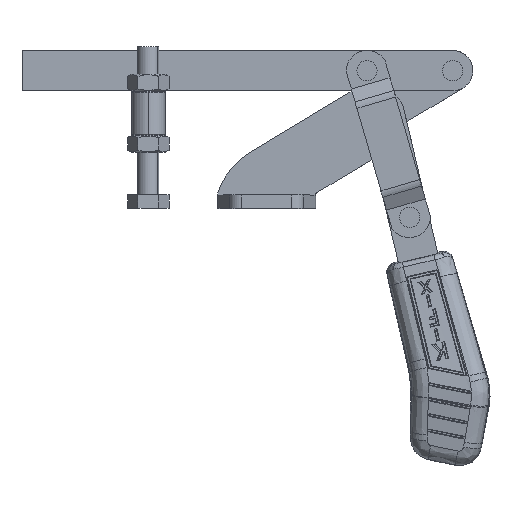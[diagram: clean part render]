
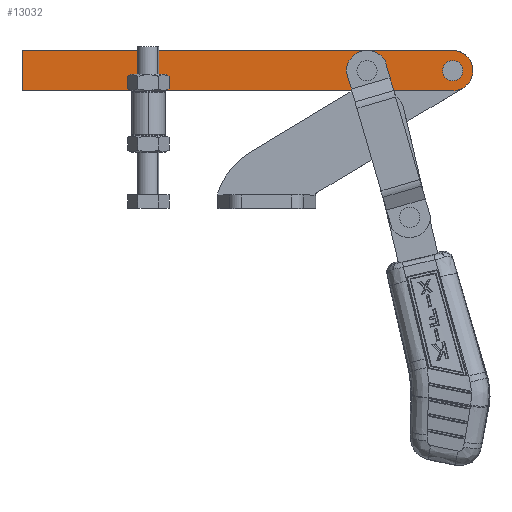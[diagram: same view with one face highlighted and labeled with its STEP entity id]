
A CAD part, top view. The second image highlights one B-rep face of the part: STEP entity #13032.
In plain terms, the highlighted planar face has unit normal (0, 0, 1) as drawn and (0, 0, -1) by its records, which use the part's own axes.
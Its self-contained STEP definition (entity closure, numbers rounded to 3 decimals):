
#455 = CIRCLE ( 'NONE', #14277, 4. ) ;
#493 = DIRECTION ( 'NONE',  ( 0., 0., 1. ) ) ;
#605 = CARTESIAN_POINT ( 'NONE',  ( -9.525, 0., -9.525 ) ) ;
#984 = FACE_OUTER_BOUND ( 'NONE', #18585, .T. ) ;
#1405 = VECTOR ( 'NONE', #5554, 1000. ) ;
#2826 = ORIENTED_EDGE ( 'NONE', *, *, #29583, .F. ) ;
#2956 = DIRECTION ( 'NONE',  ( -1., 0., 0. ) ) ;
#3009 = DIRECTION ( 'NONE',  ( 0., 0., 1. ) ) ;
#3443 = CARTESIAN_POINT ( 'NONE',  ( -213., 9.525, -9.525 ) ) ;
#4080 = EDGE_CURVE ( 'NONE', #22744, #7961, #18310, .T. ) ;
#4344 = CIRCLE ( 'NONE', #15349, 4. ) ;
#4794 = CARTESIAN_POINT ( 'NONE',  ( -5.525, 0., -9.525 ) ) ;
#5541 = CIRCLE ( 'NONE', #28941, 4. ) ;
#5554 = DIRECTION ( 'NONE',  ( 0., -1., 0. ) ) ;
#5631 = DIRECTION ( 'NONE',  ( -1., 0., 0. ) ) ;
#6374 = FACE_BOUND ( 'NONE', #24411, .T. ) ;
#7280 = CIRCLE ( 'NONE', #11014, 9.525 ) ;
#7681 = AXIS2_PLACEMENT_3D ( 'NONE', #20089, #24723, #10925 ) ;
#7961 = VERTEX_POINT ( 'NONE', #24009 ) ;
#8679 = CARTESIAN_POINT ( 'NONE',  ( -9.525, 0., -9.525 ) ) ;
#9606 = VERTEX_POINT ( 'NONE', #10118 ) ;
#9789 = CARTESIAN_POINT ( 'NONE',  ( -50.025, 0., -9.525 ) ) ;
#9970 = EDGE_CURVE ( 'NONE', #9606, #11418, #23336, .T. ) ;
#10068 = ORIENTED_EDGE ( 'NONE', *, *, #23662, .T. ) ;
#10118 = CARTESIAN_POINT ( 'NONE',  ( -46.025, 0., -9.525 ) ) ;
#10352 = VERTEX_POINT ( 'NONE', #22855 ) ;
#10899 = ORIENTED_EDGE ( 'NONE', *, *, #11263, .F. ) ;
#10925 = DIRECTION ( 'NONE',  ( -1., 0., 0. ) ) ;
#10963 = CARTESIAN_POINT ( 'NONE',  ( -54.025, 0., -9.525 ) ) ;
#10970 = DIRECTION ( 'NONE',  ( 1., 0., 0. ) ) ;
#11014 = AXIS2_PLACEMENT_3D ( 'NONE', #605, #16708, #2956 ) ;
#11263 = EDGE_CURVE ( 'NONE', #7961, #16294, #12816, .T. ) ;
#11284 = AXIS2_PLACEMENT_3D ( 'NONE', #9789, #25885, #12059 ) ;
#11418 = VERTEX_POINT ( 'NONE', #10963 ) ;
#12059 = DIRECTION ( 'NONE',  ( 1., 0., 0. ) ) ;
#12737 = CARTESIAN_POINT ( 'NONE',  ( -9.525, -9.525, -9.525 ) ) ;
#12816 = LINE ( 'NONE', #15005, #18242 ) ;
#13032 = ADVANCED_FACE ( 'NONE', ( #24742, #6374, #984 ), #26944, .T. ) ;
#14254 = CARTESIAN_POINT ( 'NONE',  ( -50.025, 0., -9.525 ) ) ;
#14277 = AXIS2_PLACEMENT_3D ( 'NONE', #16768, #3009, #19085 ) ;
#14732 = VERTEX_POINT ( 'NONE', #4794 ) ;
#14903 = DIRECTION ( 'NONE',  ( 1., 0., 0. ) ) ;
#15005 = CARTESIAN_POINT ( 'NONE',  ( -9.525, -9.525, -9.525 ) ) ;
#15349 = AXIS2_PLACEMENT_3D ( 'NONE', #8679, #24770, #10970 ) ;
#16294 = VERTEX_POINT ( 'NONE', #12737 ) ;
#16610 = DIRECTION ( 'NONE',  ( 1., 0., 0. ) ) ;
#16708 = DIRECTION ( 'NONE',  ( 0., 0., 1. ) ) ;
#16768 = CARTESIAN_POINT ( 'NONE',  ( -9.525, 0., -9.525 ) ) ;
#17391 = LINE ( 'NONE', #3443, #29618 ) ;
#18202 = EDGE_CURVE ( 'NONE', #10352, #14732, #455, .T. ) ;
#18242 = VECTOR ( 'NONE', #14903, 1000. ) ;
#18310 = LINE ( 'NONE', #19335, #1405 ) ;
#18585 = EDGE_LOOP ( 'NONE', ( #25905, #2826, #25457, #10899 ) ) ;
#19085 = DIRECTION ( 'NONE',  ( 1., 0., 0. ) ) ;
#19097 = EDGE_CURVE ( 'NONE', #16294, #24890, #7280, .T. ) ;
#19335 = CARTESIAN_POINT ( 'NONE',  ( -213., -9.525, -9.525 ) ) ;
#20089 = CARTESIAN_POINT ( 'NONE',  ( -9.525, 0., -9.525 ) ) ;
#20941 = ORIENTED_EDGE ( 'NONE', *, *, #18202, .T. ) ;
#21620 = ORIENTED_EDGE ( 'NONE', *, *, #9970, .T. ) ;
#22744 = VERTEX_POINT ( 'NONE', #29211 ) ;
#22855 = CARTESIAN_POINT ( 'NONE',  ( -13.525, 0., -9.525 ) ) ;
#23336 = CIRCLE ( 'NONE', #11284, 4. ) ;
#23519 = ORIENTED_EDGE ( 'NONE', *, *, #28226, .T. ) ;
#23662 = EDGE_CURVE ( 'NONE', #14732, #10352, #4344, .T. ) ;
#24009 = CARTESIAN_POINT ( 'NONE',  ( -213., -9.525, -9.525 ) ) ;
#24411 = EDGE_LOOP ( 'NONE', ( #21620, #23519 ) ) ;
#24723 = DIRECTION ( 'NONE',  ( 0., 0., -1. ) ) ;
#24742 = FACE_BOUND ( 'NONE', #26460, .T. ) ;
#24770 = DIRECTION ( 'NONE',  ( 0., 0., 1. ) ) ;
#24890 = VERTEX_POINT ( 'NONE', #25023 ) ;
#25023 = CARTESIAN_POINT ( 'NONE',  ( -9.525, 9.525, -9.525 ) ) ;
#25457 = ORIENTED_EDGE ( 'NONE', *, *, #19097, .F. ) ;
#25885 = DIRECTION ( 'NONE',  ( 0., 0., 1. ) ) ;
#25905 = ORIENTED_EDGE ( 'NONE', *, *, #4080, .F. ) ;
#26460 = EDGE_LOOP ( 'NONE', ( #10068, #20941 ) ) ;
#26944 = PLANE ( 'NONE',  #7681 ) ;
#28226 = EDGE_CURVE ( 'NONE', #11418, #9606, #5541, .T. ) ;
#28941 = AXIS2_PLACEMENT_3D ( 'NONE', #14254, #493, #16610 ) ;
#29211 = CARTESIAN_POINT ( 'NONE',  ( -213., 9.525, -9.525 ) ) ;
#29583 = EDGE_CURVE ( 'NONE', #24890, #22744, #17391, .T. ) ;
#29618 = VECTOR ( 'NONE', #5631, 1000. ) ;
